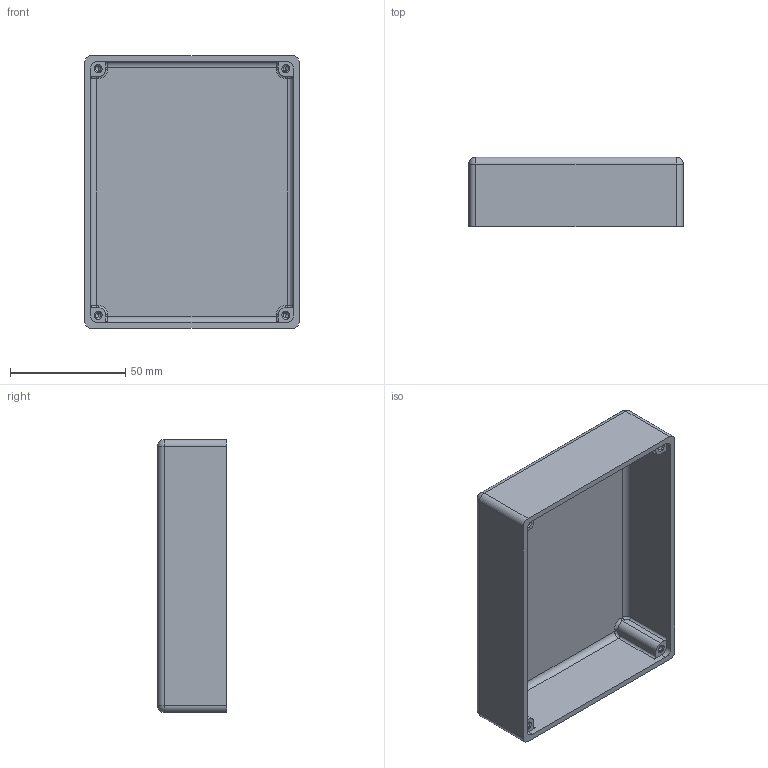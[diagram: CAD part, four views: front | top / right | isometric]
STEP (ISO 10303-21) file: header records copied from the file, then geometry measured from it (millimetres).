
FILE_DESCRIPTION (( 'STEP AP214' ), '1' );
FILE_NAME ('1590BB_Enclosure_Top.STEP', '2022-09-17T09:33:43', ( '' ), ( '' ), 'SwSTEP 2.0', 'SolidWorks 2019', '' );
FILE_SCHEMA (( 'AUTOMOTIVE_DESIGN' ));
Length unit declared in the file: millimetre
Products named in the file (1): 1590BB_Enclosure_Top
Bounding box: 93 x 30 x 118.5 mm (x, y, z)
Volume: 64186 mm3; surface area: 44596.4 mm2
Topology: 1 solids, 1 shells, 99 faces, 240 edges, 136 vertices
Faces by surface type: cylinder 44, plane 23, cone 16, torus 12, sphere 4
Entity records: 2820 total; most frequent: DIRECTION 536, CARTESIAN_POINT 464, ORIENTED_EDGE 456, EDGE_CURVE 228, AXIS2_PLACEMENT_3D 208, VERTEX_POINT 136, VECTOR 120, LINE 120
